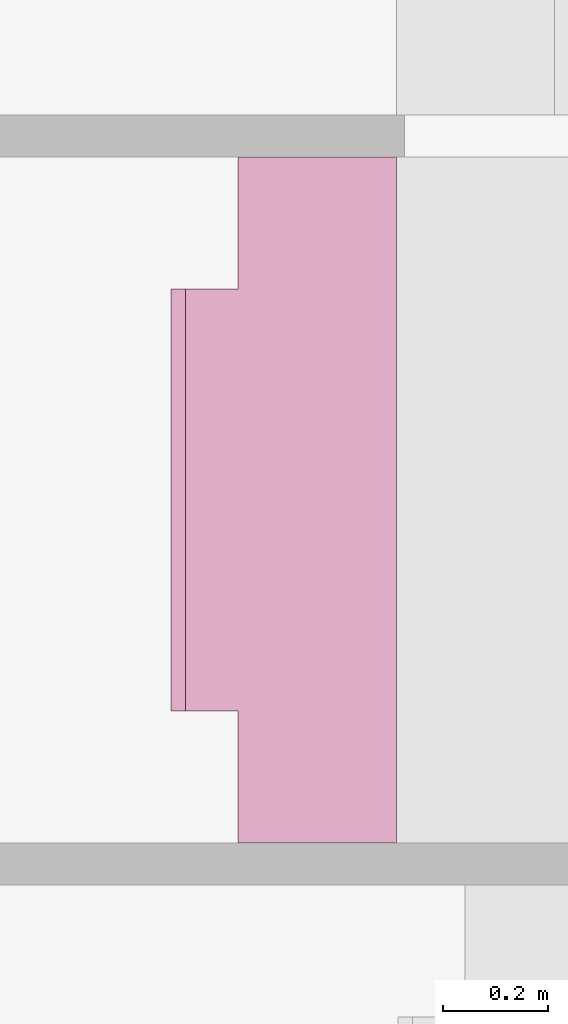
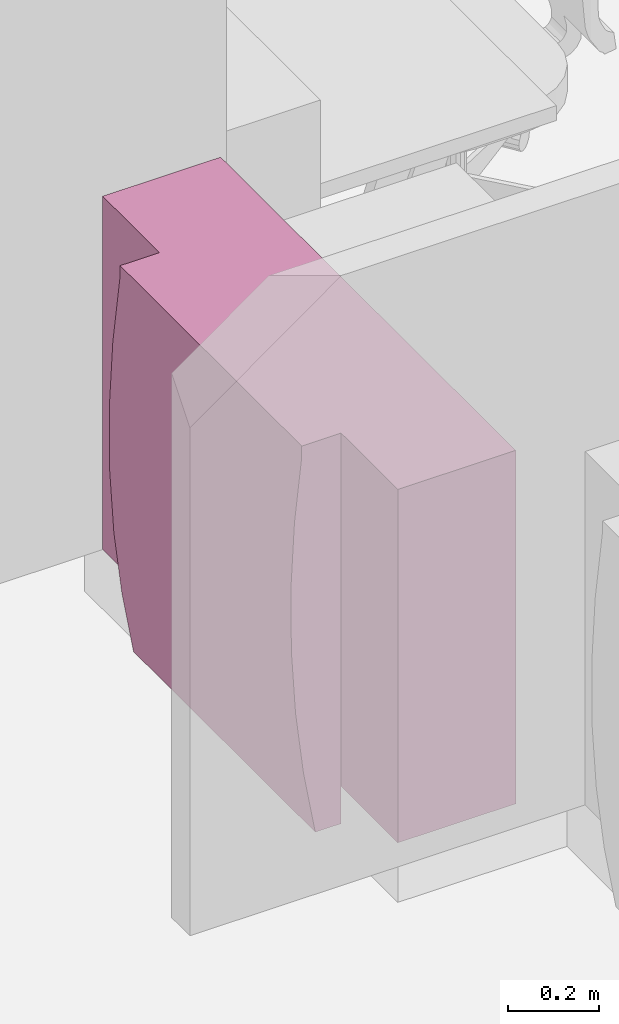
# One storey, part 95 of 128: 1 furnishing.
"""IFC2X3 building model written with IfcOpenShell, lengths in metres."""

from ifc_helpers import new_model, entity, si_unit, converted_unit, derived_unit, direction, frame, origin, place, context, subcontext, project, spatial, faceted_brep, source, transform, mapped, material, type_object, type_shapes, element, save


model = new_model("IFC2X3")

# Units and contexts
model_context = context("Model", 3, precision=1e-05, world=origin(), true_north=direction((6.123031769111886e-17, 1.0)))
body_context = subcontext(model_context, "Body", "Model", "MODEL_VIEW")
ifc_project = project(units=[si_unit("LENGTHUNIT", "METRE"), si_unit("AREAUNIT", "SQUARE_METRE"), converted_unit("PLANEANGLEUNIT", "DEGREE", entity("IfcPlaneAngleMeasure", 0.017453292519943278), si_unit("PLANEANGLEUNIT", "RADIAN"), dimensions=[0, 0, 0, 0, 0, 0, 0]), derived_unit("THERMALTRANSMITTANCEUNIT", [(si_unit("MASSUNIT", "GRAM", prefix="KILO"), 1), (si_unit("THERMODYNAMICTEMPERATUREUNIT", "KELVIN"), -1), (si_unit("TIMEUNIT", "SECOND"), -3)])], contexts=[model_context])

# Site, building, storey
site_placement = place(None, origin())
site = spatial("IfcSite", under=ifc_project, at=site_placement, Name="Default", CompositionType="ELEMENT")
building_placement = place(site_placement, origin())
building = spatial("IfcBuilding", under=site, at=building_placement, CompositionType="ELEMENT")
storey_placement = place(building_placement, origin())
storey = spatial("IfcBuildingStorey", under=building, at=storey_placement, Name="00_RDC CAF", CompositionType="ELEMENT", Elevation=2.4982504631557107e-13)

# Furnishing
ifc_material = material(Name="ARC - Mo - Blanc")
furniture_type = type_object("IfcFurnitureType", Name="Mo_Comptoir_Accueil:Mo_Table_1300x400x1200mm", AssemblyPlace="NOTDEFINED", material=ifc_material)
shared_shape = source(origin(), body_context, "Body", "Brep", [
    faceted_brep([(-0.4000000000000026, -0.14999999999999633, 0.95), (-0.649999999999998, -0.14999999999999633, 0.95), (-0.6499999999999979, -0.14999999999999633, 0.0), (-0.4000000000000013, -0.14999999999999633, 0.0), (0.6499999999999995, -0.14999999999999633, 0.95), (0.4000000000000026, -0.14999999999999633, 0.95), (0.4000000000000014, -0.14999999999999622, 0.0), (0.6499999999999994, -0.14999999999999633, 0.0), (-0.6499999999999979, 0.15000000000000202, 0.0), (-0.62, 0.15000000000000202, 0.0), (-0.62, -0.11999999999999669, 0.0), (0.6199999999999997, -0.11999999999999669, 0.0), (0.6199999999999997, 0.14999999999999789, 0.0), (0.6499999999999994, 0.14999999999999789, 0.0), (-0.62, -0.11999999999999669, 0.92), (0.6199999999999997, -0.11999999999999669, 0.92), (-0.6499999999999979, 0.14999999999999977, 0.95), (0.6499999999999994, 0.14999999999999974, 0.95), (-0.4000000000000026, -0.2500000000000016, 0.95), (0.4000000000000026, -0.2500000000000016, 0.95), (-0.62, 0.15000000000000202, 0.92), (0.6199999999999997, 0.14999999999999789, 0.92), (-0.4000000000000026, -0.1499999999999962, -0.09999999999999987), (-0.4000000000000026, -0.2154774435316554, -0.09999999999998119), (-0.4000000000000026, -0.2454476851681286, 0.06825699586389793), (-0.4000000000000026, -0.26578784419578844, 0.23794762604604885), (-0.4000000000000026, -0.2764319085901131, 0.4085211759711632), (-0.4000000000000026, -0.27734533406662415, 0.5794240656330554), (-0.4000000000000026, -0.2685251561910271, 0.7501016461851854), (-0.4000000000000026, -0.2500000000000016, 0.92), (0.4000000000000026, -0.2500000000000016, 0.92), (0.4000000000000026, -0.2685251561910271, 0.7501016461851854), (0.4000000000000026, -0.27734533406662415, 0.5794240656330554), (0.4000000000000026, -0.2764319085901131, 0.4085211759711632), (0.4000000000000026, -0.26578784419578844, 0.23794762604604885), (0.4000000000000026, -0.2454476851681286, 0.06825699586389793), (0.4000000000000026, -0.2154774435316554, -0.09999999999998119), (0.4000000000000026, -0.1499999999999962, -0.09999999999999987)], [[[0, 1, 2, 3]], [[4, 5, 6, 7]], [[8, 9, 10, 11, 12, 13, 7, 6, 3, 2]], [[14, 15, 11, 10]], [[1, 16, 8, 2]], [[17, 4, 7, 13]], [[17, 16, 1, 0, 18, 19, 5, 4]], [[14, 20, 21, 15]], [[20, 14, 10, 9]], [[17, 13, 12, 21, 20, 9, 8, 16]], [[15, 21, 12, 11]], [[0, 3, 22, 23, 24, 25, 26, 27, 28, 29, 18]], [[19, 18, 29, 30]], [[31, 32, 33, 34, 35, 36, 37, 6, 5, 19, 30]], [[31, 30, 29, 28]], [[32, 31, 28, 27]], [[33, 32, 27, 26]], [[35, 34, 25, 24]], [[36, 35, 24, 23]], [[26, 25, 34, 33]], [[37, 36, 23, 22]], [[6, 37, 22, 3]]]),
])
type_shapes(furniture_type, [shared_shape])
furnishing_placement = place(storey_placement, frame((19.845521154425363, 140.28182648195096, 0.15999999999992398), z_axis=(0.0, 0.0, 1.0), x_axis=(0.0, -1.0, 0.0)))
element("IfcFurnishingElement", 1, at=furnishing_placement, inside=storey, type_object=furniture_type, material=ifc_material, Name="Mo_Comptoir_Accueil:Mo_Table_1300x400x1200mm", ObjectType="Mo_Comptoir_Accueil:Mo_Table_1300x400x1200mm", context=body_context, shape_type="MappedRepresentation", body=[
    mapped(shared_shape, transform((0.0, 0.0, 0.0), scale=1.0)),
])

save(model, "model.ifc")
